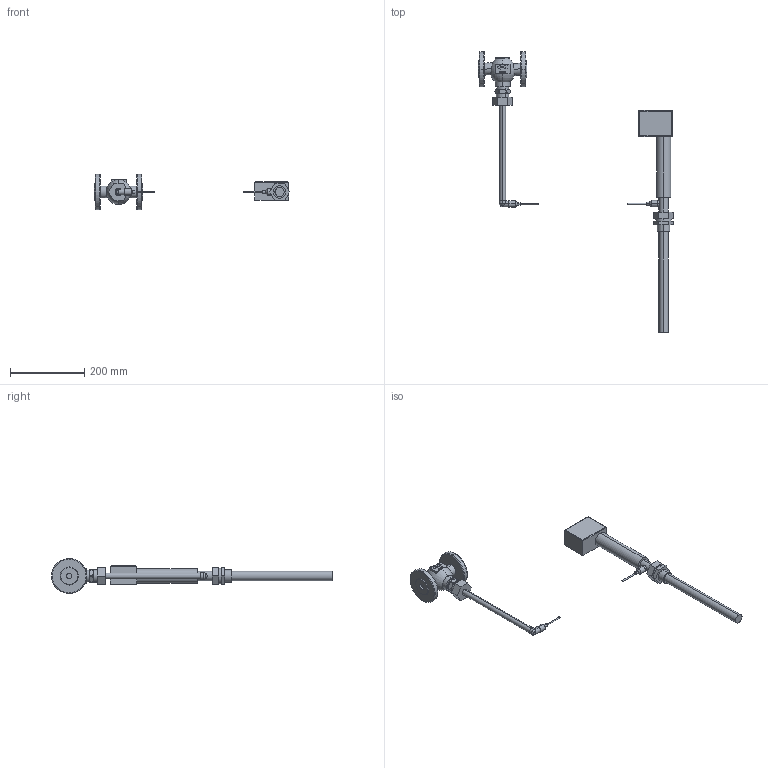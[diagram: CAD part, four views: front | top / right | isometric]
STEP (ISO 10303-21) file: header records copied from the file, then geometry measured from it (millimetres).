
FILE_DESCRIPTION (( 'STEP AP203' ), '1' );
FILE_NAME ('2111(2710)_SS_DIN_015_025_EN-JS1049_B1_std_2231_150_TL290.STEP', '2009-04-24T09:15:56', ( 'SAMSON' ), ( 'SAMSON' ), 'SwSTEP 2.0', 'SolidWorks 2006303', '' );
FILE_SCHEMA (( 'CONFIG_CONTROL_DESIGN' ));
Length unit declared in the file: millimetre
Products named in the file (1): 2111(2710)_SS_DIN_015_025_EN-JS1049_B1_std_2231_150_TL290
Bounding box: 525.37 x 756.6 x 95 mm (x, y, z)
Volume: 1290985.8 mm3; surface area: 174271.3 mm2
Topology: 6 solids, 6 shells, 372 faces, 924 edges, 606 vertices
Faces by surface type: plane 175, bspline 116, cylinder 50, torus 17, cone 13, sphere 1
Entity records: 16641 total; most frequent: CARTESIAN_POINT 8406, ORIENTED_EDGE 1848, DIRECTION 1344, EDGE_CURVE 924, VERTEX_POINT 606, LINE 516, VECTOR 516, AXIS2_PLACEMENT_3D 414
